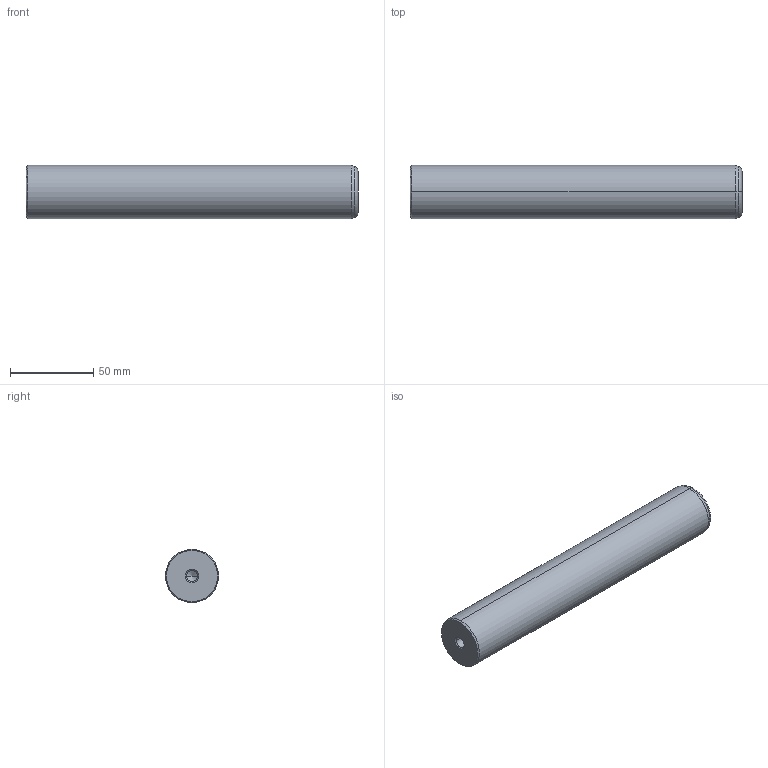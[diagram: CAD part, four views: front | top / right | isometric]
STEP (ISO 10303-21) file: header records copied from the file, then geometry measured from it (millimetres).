
FILE_DESCRIPTION(('CATIA V5 STEP Exchange'),'2;1');
FILE_NAME('C:\Users\Utente\Desktop\IO LAVORO\3D X SITO CF\X SITO\720\720-32x200.stp','2021-01-01T12:17:46+00:00',('none'),('none'),'CATIA Version 5 Release 20 GA (IN-10)','CATIA V5 STEP AP203','none');
FILE_SCHEMA(('CONFIG_CONTROL_DESIGN'));
Length unit declared in the file: millimetre
Products named in the file (1): 720-32x200
Bounding box: 200 x 32 x 32 mm (x, y, z)
Volume: 158797 mm3; surface area: 22498.9 mm2
Topology: 1 solids, 1 shells, 22 faces, 56 edges, 34 vertices
Faces by surface type: cone 12, cylinder 6, plane 2, torus 2
Entity records: 755 total; most frequent: CARTESIAN_POINT 216, ORIENTED_EDGE 104, DIRECTION 89, EDGE_CURVE 52, AXIS2_PLACEMENT_3D 50, VERTEX_POINT 34, CIRCLE 27, EDGE_LOOP 24
